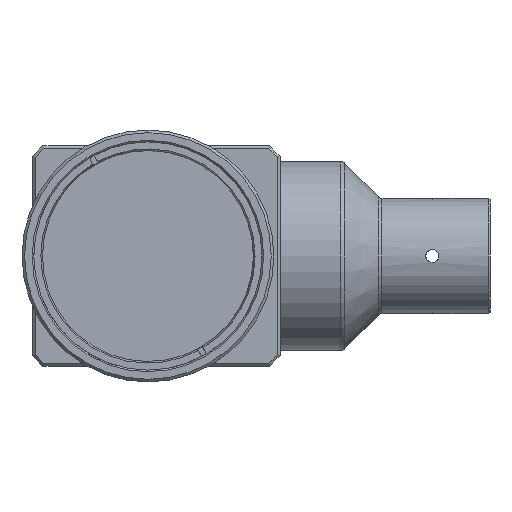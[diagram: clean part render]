
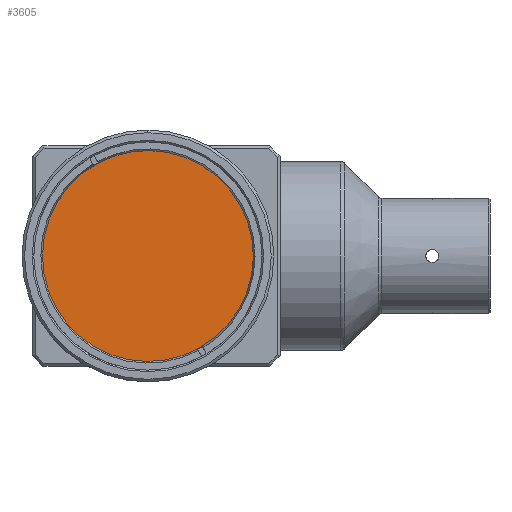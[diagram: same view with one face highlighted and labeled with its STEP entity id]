
A CAD part, left-side view. The second image highlights one B-rep face of the part: STEP entity #3605.
In plain terms, the highlighted planar face has unit normal (-1, 0, 0).
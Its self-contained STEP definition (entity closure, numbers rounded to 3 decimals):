
#26 = AXIS2_PLACEMENT_3D ( 'NONE', #3325, #317, #761 ) ;
#317 = DIRECTION ( 'NONE',  ( 1., 0., 0. ) ) ;
#503 = CARTESIAN_POINT ( 'NONE',  ( 0., 9.883, 17.492 ) ) ;
#637 = EDGE_CURVE ( 'NONE', #2360, #1836, #2462, .T. ) ;
#761 = DIRECTION ( 'NONE',  ( 0., 0., 1. ) ) ;
#1145 = CARTESIAN_POINT ( 'NONE',  ( 0., 0., 0. ) ) ;
#1500 = ORIENTED_EDGE ( 'NONE', *, *, #4761, .F. ) ;
#1542 = DIRECTION ( 'NONE',  ( 1., 0., 0. ) ) ;
#1836 = VERTEX_POINT ( 'NONE', #1944 ) ;
#1944 = CARTESIAN_POINT ( 'NONE',  ( 0., -9.883, -17.492 ) ) ;
#2082 = ORIENTED_EDGE ( 'NONE', *, *, #637, .F. ) ;
#2295 = PLANE ( 'NONE',  #6269 ) ;
#2360 = VERTEX_POINT ( 'NONE', #503 ) ;
#2423 = DIRECTION ( 'NONE',  ( 0., 0., 1. ) ) ;
#2462 = CIRCLE ( 'NONE', #3907, 20.091 ) ;
#2736 = CIRCLE ( 'NONE', #26, 20.091 ) ;
#3288 = FACE_OUTER_BOUND ( 'NONE', #3396, .T. ) ;
#3325 = CARTESIAN_POINT ( 'NONE',  ( 0., 0., 0. ) ) ;
#3396 = EDGE_LOOP ( 'NONE', ( #2082, #1500 ) ) ;
#3584 = DIRECTION ( 'NONE',  ( 0., 0., 1. ) ) ;
#3605 = ADVANCED_FACE ( 'NONE', ( #3288 ), #2295, .T. ) ;
#3907 = AXIS2_PLACEMENT_3D ( 'NONE', #1145, #1542, #3584 ) ;
#4399 = CARTESIAN_POINT ( 'NONE',  ( 0., 0., 0. ) ) ;
#4761 = EDGE_CURVE ( 'NONE', #1836, #2360, #2736, .T. ) ;
#5417 = DIRECTION ( 'NONE',  ( -1., 0., 0. ) ) ;
#6269 = AXIS2_PLACEMENT_3D ( 'NONE', #4399, #5417, #2423 ) ;
